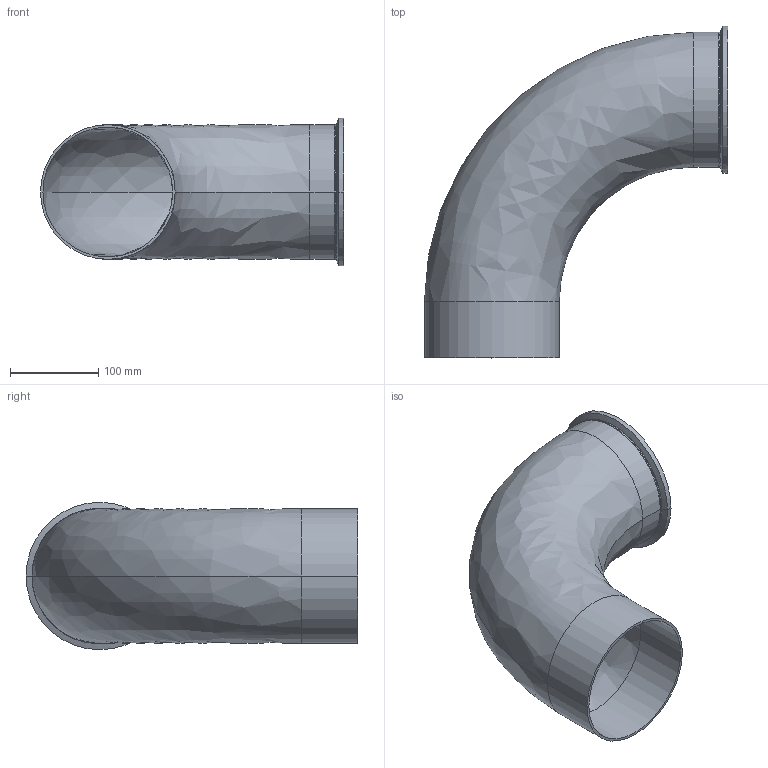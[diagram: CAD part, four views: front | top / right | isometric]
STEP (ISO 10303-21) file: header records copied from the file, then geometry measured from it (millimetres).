
FILE_DESCRIPTION (( 'STEP AP214' ), '1' );
FILE_NAME ('TE2C6L6.0-...STEP', '2016-05-22T09:39:15', ( 'eran' ), ( '' ), 'SwSTEP 2.0', 'SolidWorks 2016', '' );
FILE_SCHEMA (( 'AUTOMOTIVE_DESIGN' ));
Length unit declared in the file: millimetre
Products named in the file (1): TE2C6L6.0-..
Bounding box: 342.9 x 375.54 x 166.88 mm (x, y, z)
Volume: 624235.6 mm3; surface area: 444929 mm2
Topology: 2 solids, 2 shells, 39 faces, 92 edges, 58 vertices
Faces by surface type: bspline 14, cylinder 14, cone 6, plane 5
Entity records: 2322 total; most frequent: CARTESIAN_POINT 1378, DIRECTION 204, ORIENTED_EDGE 184, AXIS2_PLACEMENT_3D 92, EDGE_CURVE 92, CIRCLE 66, VERTEX_POINT 58, EDGE_LOOP 44
